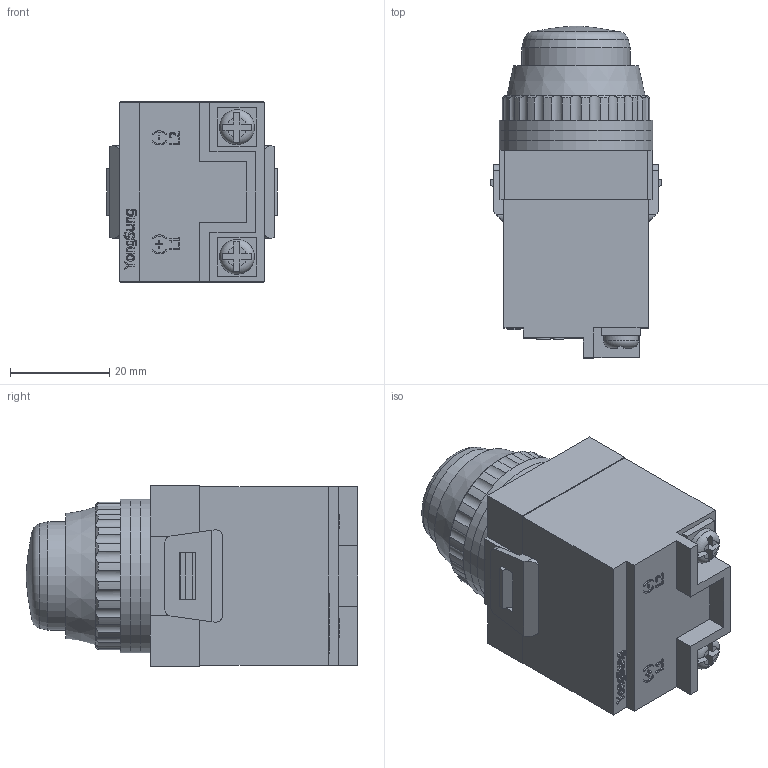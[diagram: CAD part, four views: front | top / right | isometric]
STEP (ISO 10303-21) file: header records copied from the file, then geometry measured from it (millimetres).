
FILE_DESCRIPTION(/* description */ (''),/* implementation_level */ '2;1');
FILE_NAME(/* name */ 'E:\Inventor 2016\제품 외형도\표시등\원형 표시등 (PL)\YS PL2 (25파이).stp',/* time_stamp */ '2019-04-09T10:14:41+09:00',/* author */ ('Kim'),/* organization */ (''),/* preprocessor_version */ 'ST-DEVELOPER v16.1',/* originating_system */ 'Autodesk Inventor 2016',/* authorisation */ '');
FILE_SCHEMA (('AUTOMOTIVE_DESIGN { 1 0 10303 214 3 1 1 }'));
Length unit declared in the file: millimetre
Products named in the file (3): 하부(trans); 상부; YS PL2 (25파이)
Assembly tree (2 placements, depth 2):
  YS PL2 (25파이)
    하부(trans)
    상부
Bounding box: 34.4 x 66.8 x 36.4 mm (x, y, z)
Volume: 54168.4 mm3; surface area: 17597.2 mm2
Topology: 6 solids, 6 shells, 459 faces, 1222 edges, 806 vertices
Faces by surface type: plane 254, bspline 107, cylinder 69, cone 26, torus 3
Full cylindrical faces by diameter (mm): 7 x2, 21.8 x2, 25.2 x4, 31 x3
Entity records: 15180 total; most frequent: CARTESIAN_POINT 4329, ORIENTED_EDGE 2402, DIRECTION 1781, EDGE_CURVE 1201, VERTEX_POINT 802, LINE 765, VECTOR 765, EDGE_LOOP 517
